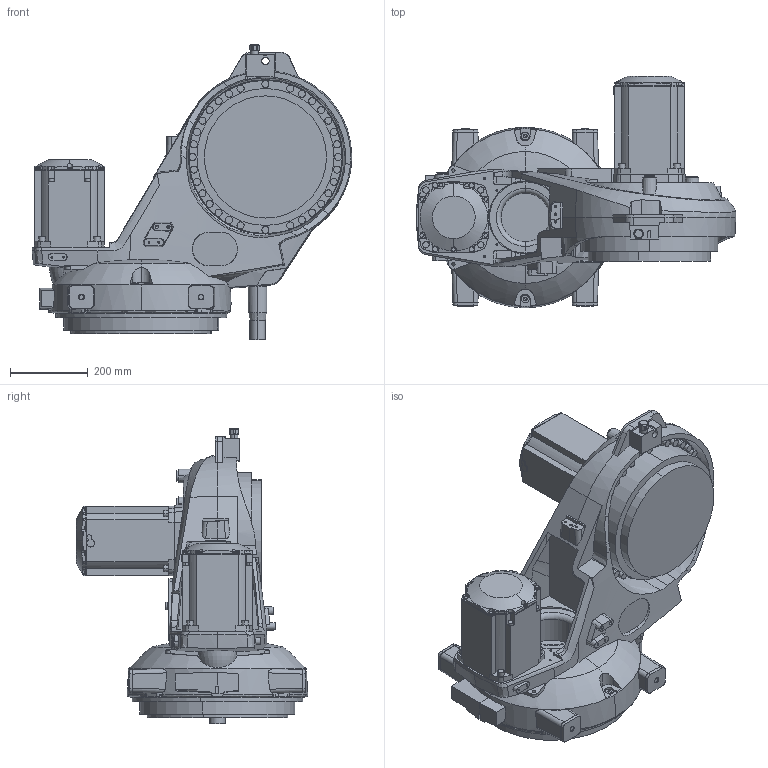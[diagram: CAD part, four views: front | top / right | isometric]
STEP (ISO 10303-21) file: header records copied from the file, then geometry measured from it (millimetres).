
FILE_DESCRIPTION (( 'STEP AP214' ), '1' );
FILE_NAME ('IRB5720-LID_155kg-260_OmniCore_rev00_LINK01_CAD.step', '2025-07-08T11:05:31', ( '' ), ( '' ), 'SwSTEP 2.0', 'SolidWorks 2024', '' );
FILE_SCHEMA (( 'AUTOMOTIVE_DESIGN' ));
Length unit declared in the file: millimetre
Products named in the file (1): IRB5720-LID_155kg-260_OmniCore_rev00_LINK01_CAD
Bounding box: 823.7 x 596.28 x 761.4 mm (x, y, z)
Volume: 76525074.6 mm3; surface area: 2196955.8 mm2
Topology: 5 solids, 12 shells, 1578 faces, 4022 edges, 2566 vertices
Faces by surface type: plane 634, cylinder 518, cone 213, bspline 158, torus 37, sphere 18
Entity records: 65332 total; most frequent: CARTESIAN_POINT 29482, ORIENTED_EDGE 7912, DIRECTION 6728, EDGE_CURVE 3956, VERTEX_POINT 2566, AXIS2_PLACEMENT_3D 2542, EDGE_LOOP 1756, VECTOR 1644
